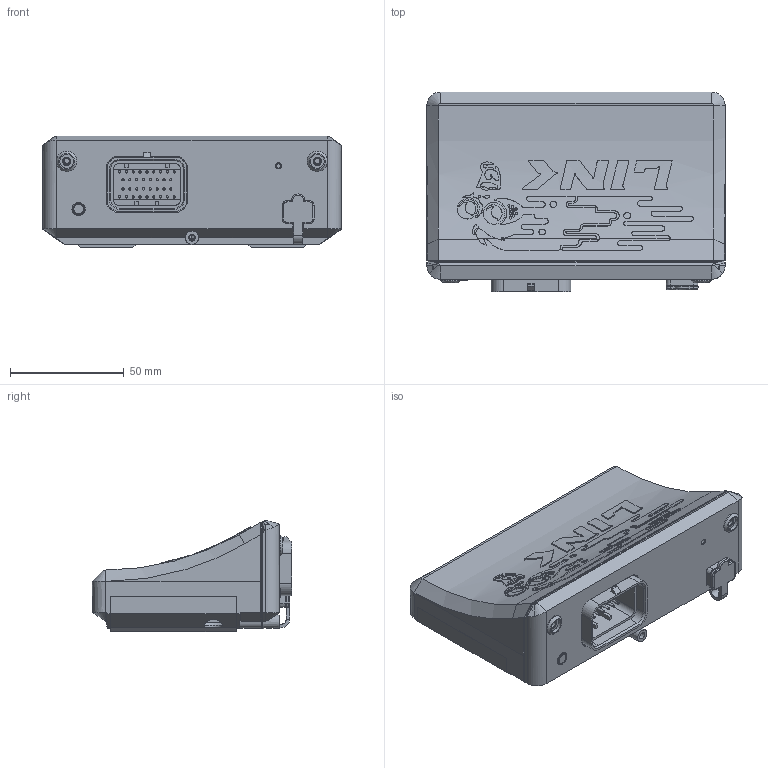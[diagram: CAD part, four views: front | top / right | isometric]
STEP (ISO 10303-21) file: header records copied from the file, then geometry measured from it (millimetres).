
FILE_DESCRIPTION(/* description */ ('STEP AP242','CAx-IF Rec.Pracs.---Representation and Presentation of Product Manufacturing Information (PMI)---4.0---2014-10-13','CAx-IF Rec.Pracs.---3D Tessellated Geometry---0.4---2014-09-14','2;1'),/* implementation_level */ '2;1');
FILE_NAME(/* name */ '67243bfcab73ea3fbd412eab',/* time_stamp */ '2024-11-01T02:25:02Z',/* author */ (''),/* organization */ (''),/* preprocessor_version */ 'ST-DEVELOPER v20',/* originating_system */ ' ',/* authorisation */ ' ');
FILE_SCHEMA (('AP242_MANAGED_MODEL_BASED_3D_ENGINEERING_MIM_LF { 1 0 10303 442 1 1 4 }'));
Products named in the file (2): MOUNT BRACKET - ATOM MONSOON; ATOM EXTERNAL MODEL
Bounding box: 131 x 87.8 x 48.96 mm (x, y, z)
Volume: 303840.6 mm3; surface area: 92564 mm2
Topology: 2 solids, 21 shells, 1391 faces, 3665 edges, 2372 vertices
Faces by surface type: plane 752, cylinder 321, bspline 150, cone 125, torus 35, sphere 8
Full cylindrical faces by diameter (mm): 1 x34, 4.148 x1, 4.8 x1, 5 x1, 5.5 x4, 6 x1, 8 x3
Entity records: 51388 total; most frequent: CARTESIAN_POINT 19101, ORIENTED_EDGE 6914, DIRECTION 6018, EDGE_CURVE 3457, VERTEX_POINT 2276, LINE 2074, VECTOR 2074, AXIS2_PLACEMENT_3D 1972
